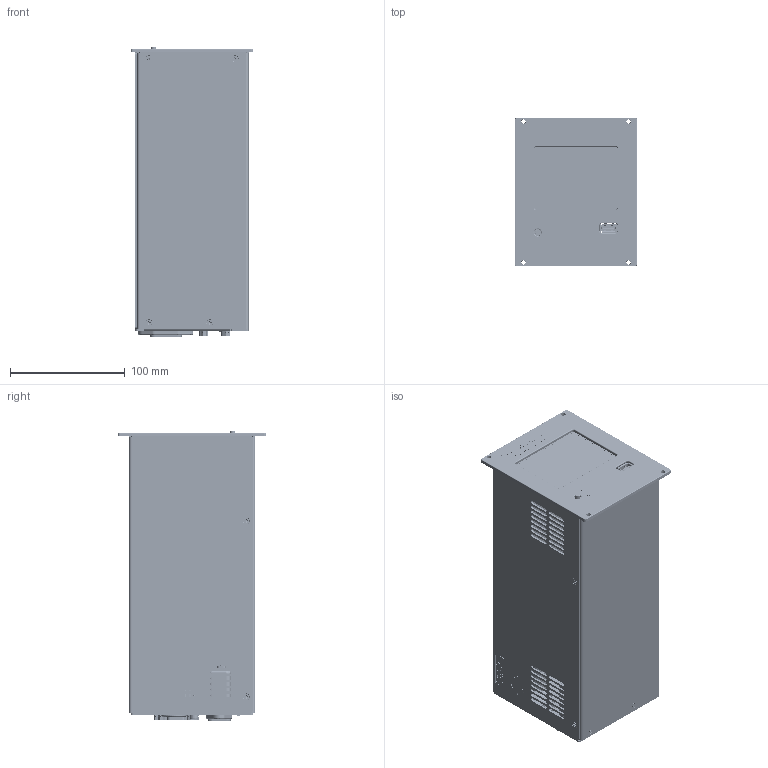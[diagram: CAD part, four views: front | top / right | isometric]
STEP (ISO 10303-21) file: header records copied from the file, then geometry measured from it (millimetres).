
FILE_DESCRIPTION (( 'STEP AP203' ), '1' );
FILE_NAME ('IPCMini FISCHER 220 OUTSIDE.STEP', '2017-07-25T09:10:12', ( '' ), ( '' ), 'SwSTEP 2.0', 'SolidWorks 2017', '' );
FILE_SCHEMA (( 'CONFIG_CONTROL_DESIGN' ));
Products named in the file (1): IPCMini FISCHER 220 OUTSIDE
Bounding box: 106.4 x 129.4 x 252.9 mm (x, y, z)
Volume: 307861.9 mm3; surface area: 387351.1 mm2
Topology: 54 solids, 59 shells, 14173 faces, 38463 edges, 25280 vertices
Faces by surface type: plane 9001, cylinder 2521, bspline 2094, cone 393, torus 107, sphere 57
Entity records: 547072 total; most frequent: CARTESIAN_POINT 202506, ORIENTED_EDGE 76840, DIRECTION 62020, EDGE_CURVE 38420, VECTOR 28062, LINE 28062, VERTEX_POINT 25280, AXIS2_PLACEMENT_3D 16979
